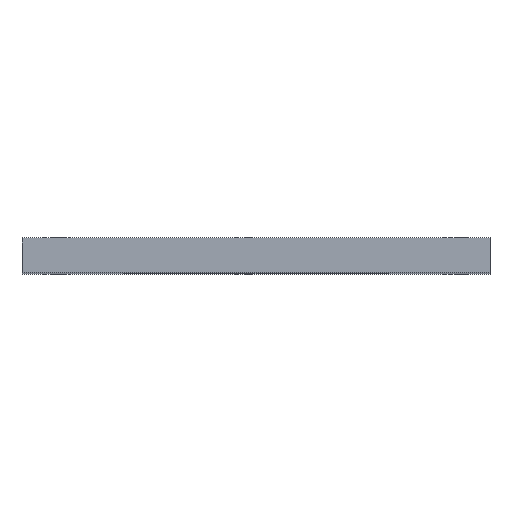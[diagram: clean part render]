
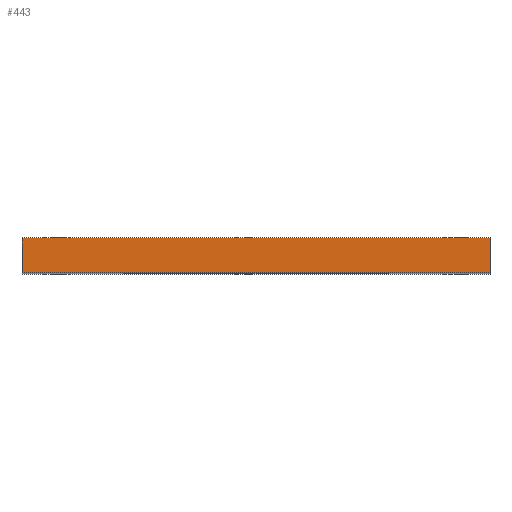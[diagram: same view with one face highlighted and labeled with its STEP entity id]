
A CAD part, top view. The second image highlights one B-rep face of the part: STEP entity #443.
In plain terms, the highlighted planar face has unit normal (0, 0, 1).
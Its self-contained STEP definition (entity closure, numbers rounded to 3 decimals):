
#24 = VERTEX_POINT('',#25);
#25 = CARTESIAN_POINT('',(-18.,-8.,36.));
#32 = PLANE('',#33);
#33 = AXIS2_PLACEMENT_3D('',#34,#35,#36);
#34 = CARTESIAN_POINT('',(-18.,-8.,-36.));
#35 = DIRECTION('',(1.,0.,0.));
#36 = DIRECTION('',(0.,0.,1.));
#44 = PLANE('',#45);
#45 = AXIS2_PLACEMENT_3D('',#46,#47,#48);
#46 = CARTESIAN_POINT('',(-18.,-8.,-36.));
#47 = DIRECTION('',(0.,1.,0.));
#48 = DIRECTION('',(0.,0.,1.));
#85 = VERTEX_POINT('',#86);
#86 = CARTESIAN_POINT('',(-18.,-4.8,36.));
#100 = PLANE('',#101);
#101 = AXIS2_PLACEMENT_3D('',#102,#103,#104);
#102 = CARTESIAN_POINT('',(-18.,-4.8,-36.));
#103 = DIRECTION('',(0.,1.,0.));
#104 = DIRECTION('',(0.,0.,1.));
#112 = EDGE_CURVE('',#24,#85,#113,.T.);
#113 = SURFACE_CURVE('',#114,(#118,#125),.PCURVE_S1.);
#114 = LINE('',#115,#116);
#115 = CARTESIAN_POINT('',(-18.,-8.,36.));
#116 = VECTOR('',#117,1.);
#117 = DIRECTION('',(0.,1.,0.));
#118 = PCURVE('',#32,#119);
#119 = DEFINITIONAL_REPRESENTATION('',(#120),#124);
#120 = LINE('',#121,#122);
#121 = CARTESIAN_POINT('',(72.,0.));
#122 = VECTOR('',#123,1.);
#123 = DIRECTION('',(0.,-1.));
#124 = ( GEOMETRIC_REPRESENTATION_CONTEXT(2) 
PARAMETRIC_REPRESENTATION_CONTEXT() REPRESENTATION_CONTEXT('2D SPACE',''
  ) );
#125 = PCURVE('',#126,#131);
#126 = PLANE('',#127);
#127 = AXIS2_PLACEMENT_3D('',#128,#129,#130);
#128 = CARTESIAN_POINT('',(-18.,-8.,36.));
#129 = DIRECTION('',(0.,0.,1.));
#130 = DIRECTION('',(1.,0.,0.));
#131 = DEFINITIONAL_REPRESENTATION('',(#132),#136);
#132 = LINE('',#133,#134);
#133 = CARTESIAN_POINT('',(0.,0.));
#134 = VECTOR('',#135,1.);
#135 = DIRECTION('',(0.,1.));
#136 = ( GEOMETRIC_REPRESENTATION_CONTEXT(2) 
PARAMETRIC_REPRESENTATION_CONTEXT() REPRESENTATION_CONTEXT('2D SPACE',''
  ) );
#165 = EDGE_CURVE('',#24,#166,#168,.T.);
#166 = VERTEX_POINT('',#167);
#167 = CARTESIAN_POINT('',(25.,-8.,36.));
#168 = SURFACE_CURVE('',#169,(#173,#180),.PCURVE_S1.);
#169 = LINE('',#170,#171);
#170 = CARTESIAN_POINT('',(-18.,-8.,36.));
#171 = VECTOR('',#172,1.);
#172 = DIRECTION('',(1.,0.,0.));
#173 = PCURVE('',#44,#174);
#174 = DEFINITIONAL_REPRESENTATION('',(#175),#179);
#175 = LINE('',#176,#177);
#176 = CARTESIAN_POINT('',(72.,0.));
#177 = VECTOR('',#178,1.);
#178 = DIRECTION('',(0.,1.));
#179 = ( GEOMETRIC_REPRESENTATION_CONTEXT(2) 
PARAMETRIC_REPRESENTATION_CONTEXT() REPRESENTATION_CONTEXT('2D SPACE',''
  ) );
#180 = PCURVE('',#126,#181);
#181 = DEFINITIONAL_REPRESENTATION('',(#182),#186);
#182 = LINE('',#183,#184);
#183 = CARTESIAN_POINT('',(0.,0.));
#184 = VECTOR('',#185,1.);
#185 = DIRECTION('',(1.,0.));
#186 = ( GEOMETRIC_REPRESENTATION_CONTEXT(2) 
PARAMETRIC_REPRESENTATION_CONTEXT() REPRESENTATION_CONTEXT('2D SPACE',''
  ) );
#202 = PLANE('',#203);
#203 = AXIS2_PLACEMENT_3D('',#204,#205,#206);
#204 = CARTESIAN_POINT('',(25.,-8.,-36.));
#205 = DIRECTION('',(1.,0.,0.));
#206 = DIRECTION('',(0.,0.,1.));
#443 = ADVANCED_FACE('',(#444),#126,.T.);
#444 = FACE_BOUND('',#445,.T.);
#445 = EDGE_LOOP('',(#446,#447,#448,#471));
#446 = ORIENTED_EDGE('',*,*,#112,.F.);
#447 = ORIENTED_EDGE('',*,*,#165,.T.);
#448 = ORIENTED_EDGE('',*,*,#449,.T.);
#449 = EDGE_CURVE('',#166,#450,#452,.T.);
#450 = VERTEX_POINT('',#451);
#451 = CARTESIAN_POINT('',(25.,-4.8,36.));
#452 = SURFACE_CURVE('',#453,(#457,#464),.PCURVE_S1.);
#453 = LINE('',#454,#455);
#454 = CARTESIAN_POINT('',(25.,-8.,36.));
#455 = VECTOR('',#456,1.);
#456 = DIRECTION('',(0.,1.,0.));
#457 = PCURVE('',#126,#458);
#458 = DEFINITIONAL_REPRESENTATION('',(#459),#463);
#459 = LINE('',#460,#461);
#460 = CARTESIAN_POINT('',(43.,0.));
#461 = VECTOR('',#462,1.);
#462 = DIRECTION('',(0.,1.));
#463 = ( GEOMETRIC_REPRESENTATION_CONTEXT(2) 
PARAMETRIC_REPRESENTATION_CONTEXT() REPRESENTATION_CONTEXT('2D SPACE',''
  ) );
#464 = PCURVE('',#202,#465);
#465 = DEFINITIONAL_REPRESENTATION('',(#466),#470);
#466 = LINE('',#467,#468);
#467 = CARTESIAN_POINT('',(72.,0.));
#468 = VECTOR('',#469,1.);
#469 = DIRECTION('',(0.,-1.));
#470 = ( GEOMETRIC_REPRESENTATION_CONTEXT(2) 
PARAMETRIC_REPRESENTATION_CONTEXT() REPRESENTATION_CONTEXT('2D SPACE',''
  ) );
#471 = ORIENTED_EDGE('',*,*,#472,.F.);
#472 = EDGE_CURVE('',#85,#450,#473,.T.);
#473 = SURFACE_CURVE('',#474,(#478,#485),.PCURVE_S1.);
#474 = LINE('',#475,#476);
#475 = CARTESIAN_POINT('',(-18.,-4.8,36.));
#476 = VECTOR('',#477,1.);
#477 = DIRECTION('',(1.,0.,0.));
#478 = PCURVE('',#126,#479);
#479 = DEFINITIONAL_REPRESENTATION('',(#480),#484);
#480 = LINE('',#481,#482);
#481 = CARTESIAN_POINT('',(0.,3.2));
#482 = VECTOR('',#483,1.);
#483 = DIRECTION('',(1.,0.));
#484 = ( GEOMETRIC_REPRESENTATION_CONTEXT(2) 
PARAMETRIC_REPRESENTATION_CONTEXT() REPRESENTATION_CONTEXT('2D SPACE',''
  ) );
#485 = PCURVE('',#100,#486);
#486 = DEFINITIONAL_REPRESENTATION('',(#487),#491);
#487 = LINE('',#488,#489);
#488 = CARTESIAN_POINT('',(72.,0.));
#489 = VECTOR('',#490,1.);
#490 = DIRECTION('',(0.,1.));
#491 = ( GEOMETRIC_REPRESENTATION_CONTEXT(2) 
PARAMETRIC_REPRESENTATION_CONTEXT() REPRESENTATION_CONTEXT('2D SPACE',''
  ) );
